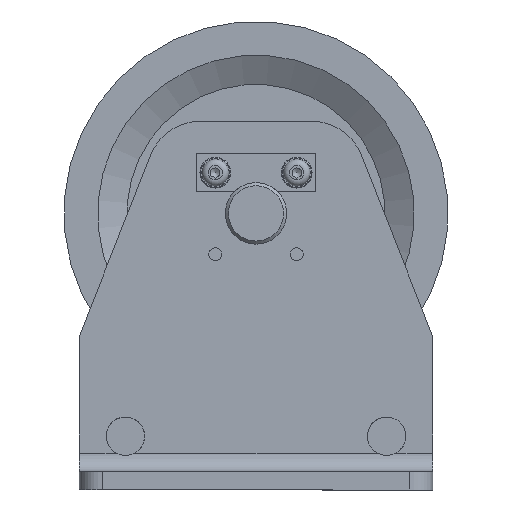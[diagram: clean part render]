
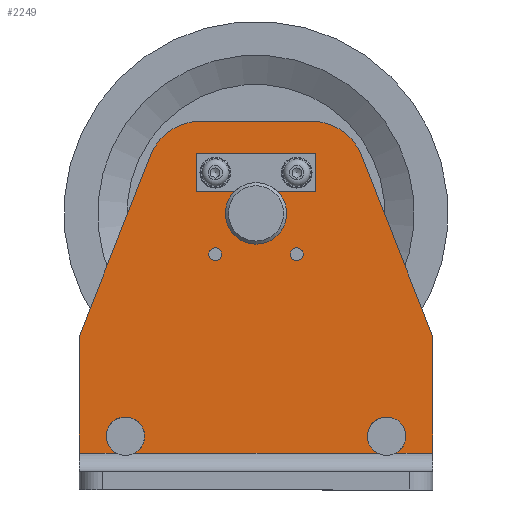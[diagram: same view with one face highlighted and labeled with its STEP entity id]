
A CAD part, front view. The second image highlights one B-rep face of the part: STEP entity #2249.
In plain terms, the highlighted planar face has unit normal (0, -1, 0) as drawn and (0, 0, 1) by its records, which use the part's own axes.
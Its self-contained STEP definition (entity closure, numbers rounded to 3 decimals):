
#165=FACE_BOUND('',#412,.T.);
#166=FACE_BOUND('',#413,.T.);
#167=FACE_BOUND('',#414,.T.);
#168=FACE_BOUND('',#415,.T.);
#169=FACE_BOUND('',#416,.T.);
#203=PLANE('',#2656);
#283=FACE_OUTER_BOUND('',#411,.T.);
#411=EDGE_LOOP('',(#1734,#1735,#1736,#1737,#1738,#1739,#1740,#1741,#1742,
#1743,#1744,#1745,#1746,#1747));
#412=EDGE_LOOP('',(#1748,#1749));
#413=EDGE_LOOP('',(#1750,#1751));
#414=EDGE_LOOP('',(#1752,#1753));
#415=EDGE_LOOP('',(#1754,#1755));
#416=EDGE_LOOP('',(#1756));
#539=CIRCLE('',#2606,4.188);
#540=CIRCLE('',#2607,4.188);
#542=CIRCLE('',#2610,4.188);
#543=CIRCLE('',#2611,4.188);
#545=CIRCLE('',#2614,4.188);
#546=CIRCLE('',#2615,4.188);
#548=CIRCLE('',#2618,4.188);
#549=CIRCLE('',#2619,4.188);
#560=CIRCLE('',#2642,12.5);
#561=CIRCLE('',#2643,12.5);
#562=CIRCLE('',#2645,12.5);
#563=CIRCLE('',#2646,12.5);
#564=CIRCLE('',#2648,20.);
#565=CIRCLE('',#2651,35.);
#566=CIRCLE('',#2654,35.);
#676=LINE('',#3675,#827);
#677=LINE('',#3692,#828);
#681=LINE('',#3703,#832);
#724=LINE('',#3867,#875);
#725=LINE('',#3870,#876);
#734=LINE('',#3908,#885);
#737=LINE('',#3916,#888);
#740=LINE('',#3923,#891);
#827=VECTOR('',#2891,10.);
#828=VECTOR('',#2892,10.);
#832=VECTOR('',#2900,10.);
#875=VECTOR('',#3049,10.);
#876=VECTOR('',#3052,10.);
#885=VECTOR('',#3095,10.);
#888=VECTOR('',#3104,10.);
#891=VECTOR('',#3113,10.);
#986=VERTEX_POINT('',#3658);
#987=VERTEX_POINT('',#3659);
#988=VERTEX_POINT('',#3674);
#989=VERTEX_POINT('',#3676);
#990=VERTEX_POINT('',#3691);
#995=VERTEX_POINT('',#3701);
#1024=VERTEX_POINT('',#3784);
#1025=VERTEX_POINT('',#3785);
#1027=VERTEX_POINT('',#3792);
#1028=VERTEX_POINT('',#3793);
#1030=VERTEX_POINT('',#3800);
#1031=VERTEX_POINT('',#3801);
#1033=VERTEX_POINT('',#3808);
#1034=VERTEX_POINT('',#3809);
#1043=VERTEX_POINT('',#3865);
#1044=VERTEX_POINT('',#3869);
#1053=VERTEX_POINT('',#3893);
#1054=VERTEX_POINT('',#3898);
#1055=VERTEX_POINT('',#3903);
#1056=VERTEX_POINT('',#3907);
#1057=VERTEX_POINT('',#3911);
#1058=VERTEX_POINT('',#3915);
#1059=VERTEX_POINT('',#3919);
#1203=EDGE_CURVE('',#988,#987,#676,.T.);
#1205=EDGE_CURVE('',#990,#989,#677,.T.);
#1211=EDGE_CURVE('',#986,#995,#681,.T.);
#1253=EDGE_CURVE('',#1024,#1025,#539,.T.);
#1254=EDGE_CURVE('',#1025,#1024,#540,.T.);
#1257=EDGE_CURVE('',#1027,#1028,#542,.T.);
#1258=EDGE_CURVE('',#1028,#1027,#543,.T.);
#1261=EDGE_CURVE('',#1030,#1031,#545,.T.);
#1262=EDGE_CURVE('',#1031,#1030,#546,.T.);
#1265=EDGE_CURVE('',#1033,#1034,#548,.T.);
#1266=EDGE_CURVE('',#1034,#1033,#549,.T.);
#1286=EDGE_CURVE('',#1043,#995,#724,.T.);
#1287=EDGE_CURVE('',#990,#1044,#725,.T.);
#1301=EDGE_CURVE('',#987,#1053,#560,.T.);
#1302=EDGE_CURVE('',#1053,#986,#561,.T.);
#1304=EDGE_CURVE('',#989,#1054,#562,.T.);
#1305=EDGE_CURVE('',#1054,#988,#563,.T.);
#1307=EDGE_CURVE('',#1055,#1055,#564,.T.);
#1308=EDGE_CURVE('',#1044,#1056,#734,.T.);
#1310=EDGE_CURVE('',#1056,#1057,#565,.T.);
#1312=EDGE_CURVE('',#1057,#1058,#737,.T.);
#1314=EDGE_CURVE('',#1058,#1059,#566,.T.);
#1316=EDGE_CURVE('',#1059,#1043,#740,.T.);
#1734=ORIENTED_EDGE('',*,*,#1211,.T.);
#1735=ORIENTED_EDGE('',*,*,#1286,.F.);
#1736=ORIENTED_EDGE('',*,*,#1316,.F.);
#1737=ORIENTED_EDGE('',*,*,#1314,.F.);
#1738=ORIENTED_EDGE('',*,*,#1312,.F.);
#1739=ORIENTED_EDGE('',*,*,#1310,.F.);
#1740=ORIENTED_EDGE('',*,*,#1308,.F.);
#1741=ORIENTED_EDGE('',*,*,#1287,.F.);
#1742=ORIENTED_EDGE('',*,*,#1205,.T.);
#1743=ORIENTED_EDGE('',*,*,#1304,.T.);
#1744=ORIENTED_EDGE('',*,*,#1305,.T.);
#1745=ORIENTED_EDGE('',*,*,#1203,.T.);
#1746=ORIENTED_EDGE('',*,*,#1301,.T.);
#1747=ORIENTED_EDGE('',*,*,#1302,.T.);
#1748=ORIENTED_EDGE('',*,*,#1253,.T.);
#1749=ORIENTED_EDGE('',*,*,#1254,.T.);
#1750=ORIENTED_EDGE('',*,*,#1257,.T.);
#1751=ORIENTED_EDGE('',*,*,#1258,.T.);
#1752=ORIENTED_EDGE('',*,*,#1261,.T.);
#1753=ORIENTED_EDGE('',*,*,#1262,.T.);
#1754=ORIENTED_EDGE('',*,*,#1265,.T.);
#1755=ORIENTED_EDGE('',*,*,#1266,.T.);
#1756=ORIENTED_EDGE('',*,*,#1307,.T.);
#2249=ADVANCED_FACE('',(#283,#165,#166,#167,#168,#169),#203,.T.);
#2606=AXIS2_PLACEMENT_3D('',#3786,#2980,#2981);
#2607=AXIS2_PLACEMENT_3D('',#3787,#2982,#2983);
#2610=AXIS2_PLACEMENT_3D('',#3794,#2989,#2990);
#2611=AXIS2_PLACEMENT_3D('',#3795,#2991,#2992);
#2614=AXIS2_PLACEMENT_3D('',#3802,#2998,#2999);
#2615=AXIS2_PLACEMENT_3D('',#3803,#3000,#3001);
#2618=AXIS2_PLACEMENT_3D('',#3810,#3007,#3008);
#2619=AXIS2_PLACEMENT_3D('',#3811,#3009,#3010);
#2642=AXIS2_PLACEMENT_3D('',#3895,#3077,#3078);
#2643=AXIS2_PLACEMENT_3D('',#3896,#3079,#3080);
#2645=AXIS2_PLACEMENT_3D('',#3900,#3084,#3085);
#2646=AXIS2_PLACEMENT_3D('',#3901,#3086,#3087);
#2648=AXIS2_PLACEMENT_3D('',#3905,#3091,#3092);
#2651=AXIS2_PLACEMENT_3D('',#3912,#3099,#3100);
#2654=AXIS2_PLACEMENT_3D('',#3920,#3108,#3109);
#2656=AXIS2_PLACEMENT_3D('',#3924,#3114,#3115);
#2891=DIRECTION('',(1.,0.,0.));
#2892=DIRECTION('',(1.,0.,0.));
#2900=DIRECTION('',(1.,0.,0.));
#2980=DIRECTION('center_axis',(0.,0.,-1.));
#2981=DIRECTION('ref_axis',(1.,0.,0.));
#2982=DIRECTION('center_axis',(0.,0.,-1.));
#2983=DIRECTION('ref_axis',(1.,0.,0.));
#2989=DIRECTION('center_axis',(0.,0.,-1.));
#2990=DIRECTION('ref_axis',(1.,0.,0.));
#2991=DIRECTION('center_axis',(0.,0.,-1.));
#2992=DIRECTION('ref_axis',(1.,0.,0.));
#2998=DIRECTION('center_axis',(0.,0.,-1.));
#2999=DIRECTION('ref_axis',(1.,0.,0.));
#3000=DIRECTION('center_axis',(0.,0.,-1.));
#3001=DIRECTION('ref_axis',(1.,0.,0.));
#3007=DIRECTION('center_axis',(0.,0.,-1.));
#3008=DIRECTION('ref_axis',(1.,0.,0.));
#3009=DIRECTION('center_axis',(0.,0.,-1.));
#3010=DIRECTION('ref_axis',(1.,0.,0.));
#3049=DIRECTION('',(0.,-1.,0.));
#3052=DIRECTION('',(0.,1.,0.));
#3077=DIRECTION('center_axis',(0.,0.,-1.));
#3078=DIRECTION('ref_axis',(-1.,0.,0.));
#3079=DIRECTION('center_axis',(0.,0.,-1.));
#3080=DIRECTION('ref_axis',(-1.,0.,0.));
#3084=DIRECTION('center_axis',(0.,0.,-1.));
#3085=DIRECTION('ref_axis',(-1.,0.,0.));
#3086=DIRECTION('center_axis',(0.,0.,-1.));
#3087=DIRECTION('ref_axis',(-1.,0.,0.));
#3091=DIRECTION('center_axis',(0.,0.,-1.));
#3092=DIRECTION('ref_axis',(-1.,0.,0.));
#3095=DIRECTION('',(0.366,0.931,0.));
#3099=DIRECTION('center_axis',(0.,0.,-1.));
#3100=DIRECTION('ref_axis',(0.,1.,0.));
#3104=DIRECTION('',(1.,0.,0.));
#3108=DIRECTION('center_axis',(0.,0.,-1.));
#3109=DIRECTION('ref_axis',(0.931,0.366,0.));
#3113=DIRECTION('',(0.366,-0.931,0.));
#3114=DIRECTION('center_axis',(0.,0.,1.));
#3115=DIRECTION('ref_axis',(1.,0.,0.));
#3658=CARTESIAN_POINT('',(90.937,24.,12.));
#3659=CARTESIAN_POINT('',(79.063,24.,12.));
#3674=CARTESIAN_POINT('',(-79.063,24.,12.));
#3675=CARTESIAN_POINT('',(39.531,24.,12.));
#3676=CARTESIAN_POINT('',(-90.937,24.,12.));
#3691=CARTESIAN_POINT('',(-115.,24.,12.));
#3692=CARTESIAN_POINT('',(-45.469,24.,12.));
#3701=CARTESIAN_POINT('',(115.,24.,12.));
#3703=CARTESIAN_POINT('',(57.5,24.,12.));
#3784=CARTESIAN_POINT('',(-22.312,153.5,12.));
#3785=CARTESIAN_POINT('',(-30.688,153.5,12.));
#3786=CARTESIAN_POINT('Origin',(-26.5,153.5,12.));
#3787=CARTESIAN_POINT('Origin',(-26.5,153.5,12.));
#3792=CARTESIAN_POINT('',(30.688,153.5,12.));
#3793=CARTESIAN_POINT('',(22.312,153.5,12.));
#3794=CARTESIAN_POINT('Origin',(26.5,153.5,12.));
#3795=CARTESIAN_POINT('Origin',(26.5,153.5,12.));
#3800=CARTESIAN_POINT('',(-22.312,206.5,12.));
#3801=CARTESIAN_POINT('',(-30.688,206.5,12.));
#3802=CARTESIAN_POINT('Origin',(-26.5,206.5,12.));
#3803=CARTESIAN_POINT('Origin',(-26.5,206.5,12.));
#3808=CARTESIAN_POINT('',(30.688,206.5,12.));
#3809=CARTESIAN_POINT('',(22.312,206.5,12.));
#3810=CARTESIAN_POINT('Origin',(26.5,206.5,12.));
#3811=CARTESIAN_POINT('Origin',(26.5,206.5,12.));
#3865=CARTESIAN_POINT('',(115.,100.,12.));
#3867=CARTESIAN_POINT('',(115.,0.,12.));
#3869=CARTESIAN_POINT('',(-115.,100.,12.));
#3870=CARTESIAN_POINT('',(-115.,100.,12.));
#3893=CARTESIAN_POINT('',(97.5,35.,12.));
#3895=CARTESIAN_POINT('Origin',(85.,35.,12.));
#3896=CARTESIAN_POINT('Origin',(85.,35.,12.));
#3898=CARTESIAN_POINT('',(-72.5,35.,12.));
#3900=CARTESIAN_POINT('Origin',(-85.,35.,12.));
#3901=CARTESIAN_POINT('Origin',(-85.,35.,12.));
#3903=CARTESIAN_POINT('',(20.,180.,12.));
#3905=CARTESIAN_POINT('Origin',(0.,180.,12.));
#3907=CARTESIAN_POINT('',(-68.722,217.798,12.));
#3908=CARTESIAN_POINT('',(-68.722,217.798,12.));
#3911=CARTESIAN_POINT('',(-36.146,240.,12.));
#3912=CARTESIAN_POINT('Origin',(-36.146,205.,12.));
#3915=CARTESIAN_POINT('',(36.146,240.,12.));
#3916=CARTESIAN_POINT('',(36.146,240.,12.));
#3919=CARTESIAN_POINT('',(68.722,217.798,12.));
#3920=CARTESIAN_POINT('Origin',(36.146,205.,12.));
#3923=CARTESIAN_POINT('',(115.,100.,12.));
#3924=CARTESIAN_POINT('Origin',(0.,103.666,12.));
